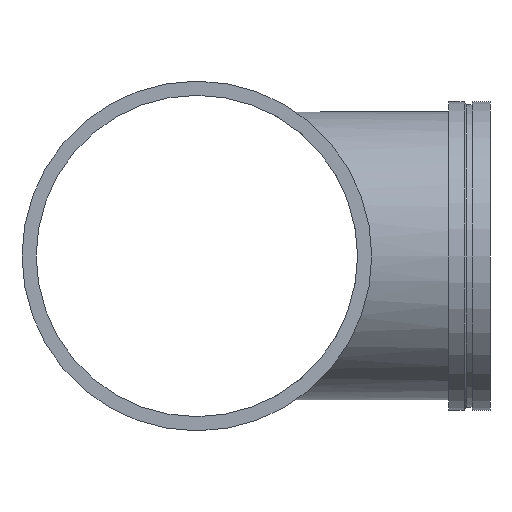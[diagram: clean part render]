
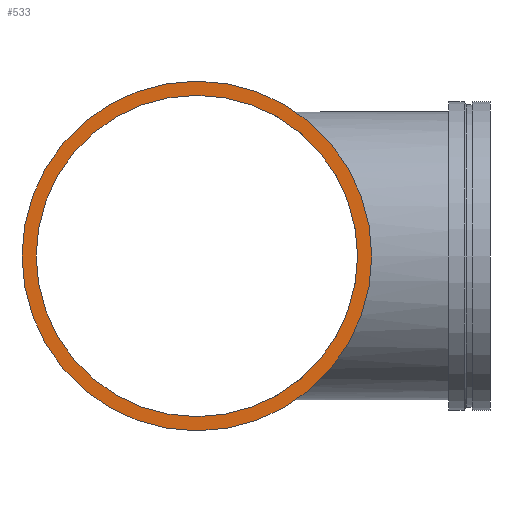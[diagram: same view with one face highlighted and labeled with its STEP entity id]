
A CAD part, left-side view. The second image highlights one B-rep face of the part: STEP entity #533.
In plain terms, the highlighted planar face has unit normal (-1, 0, 0).
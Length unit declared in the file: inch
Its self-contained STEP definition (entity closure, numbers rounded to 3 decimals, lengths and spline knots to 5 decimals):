
#58=FACE_BOUND('',#128,.T.);
#67=PLANE('',#626);
#92=FACE_OUTER_BOUND('',#127,.T.);
#127=EDGE_LOOP('',(#465,#466));
#128=EDGE_LOOP('',(#467,#468));
#151=CIRCLE('',#587,17.);
#152=CIRCLE('',#588,17.);
#175=CIRCLE('',#624,15.625);
#176=CIRCLE('',#625,15.625);
#239=VERTEX_POINT('',#1161);
#240=VERTEX_POINT('',#1163);
#263=VERTEX_POINT('',#1230);
#264=VERTEX_POINT('',#1232);
#299=EDGE_CURVE('',#239,#240,#151,.T.);
#300=EDGE_CURVE('',#240,#239,#152,.T.);
#331=EDGE_CURVE('',#264,#263,#175,.T.);
#332=EDGE_CURVE('',#263,#264,#176,.T.);
#465=ORIENTED_EDGE('',*,*,#300,.F.);
#466=ORIENTED_EDGE('',*,*,#299,.F.);
#467=ORIENTED_EDGE('',*,*,#331,.T.);
#468=ORIENTED_EDGE('',*,*,#332,.T.);
#533=ADVANCED_FACE('',(#92,#58),#67,.T.);
#587=AXIS2_PLACEMENT_3D('',#1164,#716,#717);
#588=AXIS2_PLACEMENT_3D('',#1165,#718,#719);
#624=AXIS2_PLACEMENT_3D('',#1233,#798,#799);
#625=AXIS2_PLACEMENT_3D('',#1234,#800,#801);
#626=AXIS2_PLACEMENT_3D('',#1235,#802,#803);
#716=DIRECTION('center_axis',(1.,0.,0.));
#717=DIRECTION('ref_axis',(0.,0.,1.));
#718=DIRECTION('center_axis',(1.,0.,0.));
#719=DIRECTION('ref_axis',(0.,0.,1.));
#798=DIRECTION('center_axis',(1.,0.,0.));
#799=DIRECTION('ref_axis',(0.,0.,1.));
#800=DIRECTION('center_axis',(1.,0.,0.));
#801=DIRECTION('ref_axis',(0.,0.,1.));
#802=DIRECTION('center_axis',(-1.,0.,0.));
#803=DIRECTION('ref_axis',(0.,0.,-1.));
#1161=CARTESIAN_POINT('',(-29.5,17.,0.));
#1163=CARTESIAN_POINT('',(-29.5,-17.,0.));
#1164=CARTESIAN_POINT('Origin',(-29.5,0.,0.));
#1165=CARTESIAN_POINT('Origin',(-29.5,0.,0.));
#1230=CARTESIAN_POINT('',(-29.5,15.625,0.));
#1232=CARTESIAN_POINT('',(-29.5,-15.625,0.));
#1233=CARTESIAN_POINT('Origin',(-29.5,0.,0.));
#1234=CARTESIAN_POINT('Origin',(-29.5,0.,0.));
#1235=CARTESIAN_POINT('Origin',(-29.5,-17.,0.));
